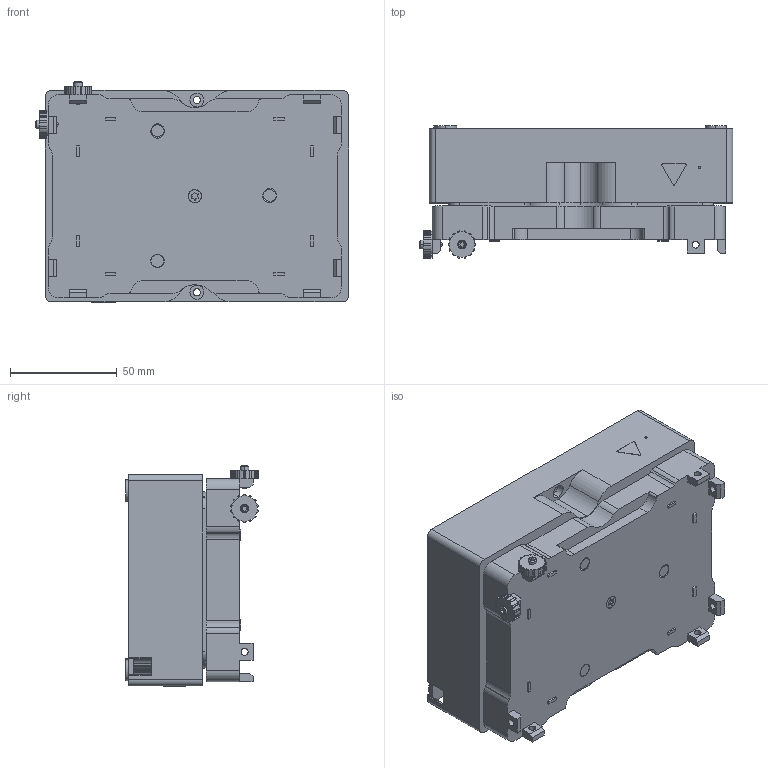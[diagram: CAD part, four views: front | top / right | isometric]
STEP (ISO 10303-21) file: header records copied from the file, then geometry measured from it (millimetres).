
FILE_DESCRIPTION (( 'STEP AP214' ), '1' );
FILE_NAME ('2016-0016-00_CAD_public.STEP', '2020-06-17T11:18:45', ( '' ), ( '' ), 'SwSTEP 2.0', 'SolidWorks 2019', '' );
FILE_SCHEMA (( 'AUTOMOTIVE_DESIGN' ));
Length unit declared in the file: millimetre
Products named in the file (1): 2016-0016-00_CAD_public
Bounding box: 146.8 x 62.07 x 103.1 mm (x, y, z)
Volume: 678312.5 mm3; surface area: 115011.1 mm2
Topology: 35 solids, 40 shells, 1093 faces, 2878 edges, 1881 vertices
Faces by surface type: plane 477, cylinder 435, bspline 117, cone 48, torus 16
Entity records: 49126 total; most frequent: CARTESIAN_POINT 9680, ORIENTED_EDGE 5728, DIRECTION 5551, EDGE_CURVE 2864, AXIS2_PLACEMENT_3D 1924, VERTEX_POINT 1881, LINE 1703, VECTOR 1703
